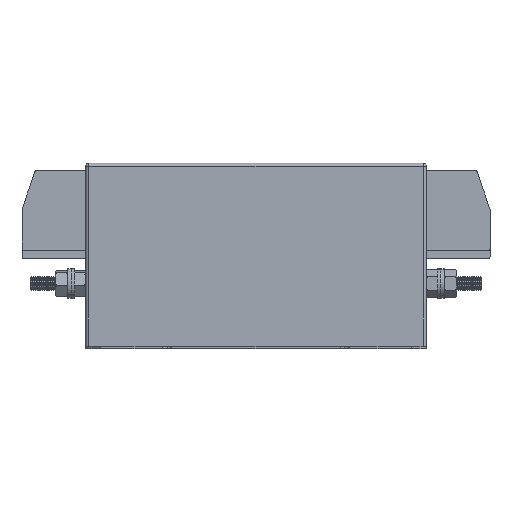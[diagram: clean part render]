
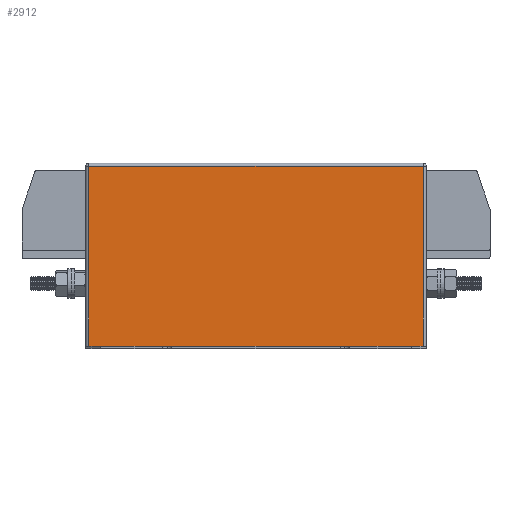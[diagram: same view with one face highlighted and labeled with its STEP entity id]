
A CAD part, top view. The second image highlights one B-rep face of the part: STEP entity #2912.
In plain terms, the highlighted planar face has unit normal (0, 0, 1).
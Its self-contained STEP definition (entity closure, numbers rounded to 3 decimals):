
#31 = VECTOR ( 'NONE', #8114, 1000. ) ;
#399 = VERTEX_POINT ( 'NONE', #5892 ) ;
#741 = CARTESIAN_POINT ( 'NONE',  ( 0., 125., -12.5 ) ) ;
#886 = CARTESIAN_POINT ( 'NONE',  ( 2., 125., -12.5 ) ) ;
#1110 = DIRECTION ( 'NONE',  ( 0., -1., 0. ) ) ;
#1399 = EDGE_CURVE ( 'NONE', #3624, #399, #9373, .T. ) ;
#1502 = VECTOR ( 'NONE', #8979, 1000. ) ;
#2742 = AXIS2_PLACEMENT_3D ( 'NONE', #741, #9237, #7680 ) ;
#2912 = ADVANCED_FACE ( 'NONE', ( #8668 ), #5220, .F. ) ;
#3624 = VERTEX_POINT ( 'NONE', #5597 ) ;
#3762 = ORIENTED_EDGE ( 'NONE', *, *, #6923, .T. ) ;
#5196 = ORIENTED_EDGE ( 'NONE', *, *, #1399, .T. ) ;
#5220 = PLANE ( 'NONE',  #2742 ) ;
#5362 = LINE ( 'NONE', #8177, #1502 ) ;
#5597 = CARTESIAN_POINT ( 'NONE',  ( 228., 1.5, -12.5 ) ) ;
#5836 = CARTESIAN_POINT ( 'NONE',  ( 2., 1.5, -12.5 ) ) ;
#5863 = ORIENTED_EDGE ( 'NONE', *, *, #9867, .T. ) ;
#5884 = VERTEX_POINT ( 'NONE', #9252 ) ;
#5892 = CARTESIAN_POINT ( 'NONE',  ( 228., 123., -12.5 ) ) ;
#6153 = VERTEX_POINT ( 'NONE', #5836 ) ;
#6422 = LINE ( 'NONE', #9631, #31 ) ;
#6923 = EDGE_CURVE ( 'NONE', #6153, #3624, #5362, .T. ) ;
#7680 = DIRECTION ( 'NONE',  ( -1., 0., 0. ) ) ;
#7871 = CARTESIAN_POINT ( 'NONE',  ( 228., 125., -12.5 ) ) ;
#7981 = EDGE_LOOP ( 'NONE', ( #9937, #5863, #3762, #5196 ) ) ;
#8114 = DIRECTION ( 'NONE',  ( -1., 0., 0. ) ) ;
#8177 = CARTESIAN_POINT ( 'NONE',  ( 0., 1.5, -12.5 ) ) ;
#8414 = VECTOR ( 'NONE', #1110, 1000. ) ;
#8653 = EDGE_CURVE ( 'NONE', #399, #5884, #6422, .T. ) ;
#8668 = FACE_OUTER_BOUND ( 'NONE', #7981, .T. ) ;
#8979 = DIRECTION ( 'NONE',  ( 1., 0., 0. ) ) ;
#9237 = DIRECTION ( 'NONE',  ( 0., 0., -1. ) ) ;
#9252 = CARTESIAN_POINT ( 'NONE',  ( 2., 123., -12.5 ) ) ;
#9373 = LINE ( 'NONE', #7871, #9858 ) ;
#9523 = DIRECTION ( 'NONE',  ( 0., 1., 0. ) ) ;
#9628 = LINE ( 'NONE', #886, #8414 ) ;
#9631 = CARTESIAN_POINT ( 'NONE',  ( 0., 123., -12.5 ) ) ;
#9858 = VECTOR ( 'NONE', #9523, 1000. ) ;
#9867 = EDGE_CURVE ( 'NONE', #5884, #6153, #9628, .T. ) ;
#9937 = ORIENTED_EDGE ( 'NONE', *, *, #8653, .T. ) ;
